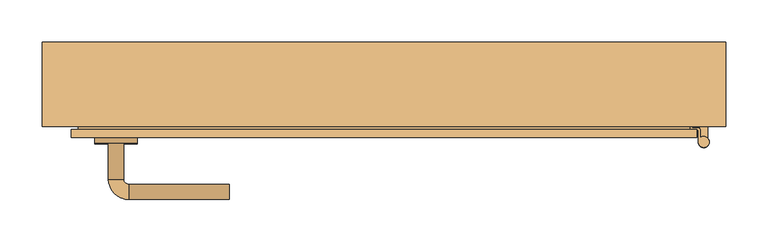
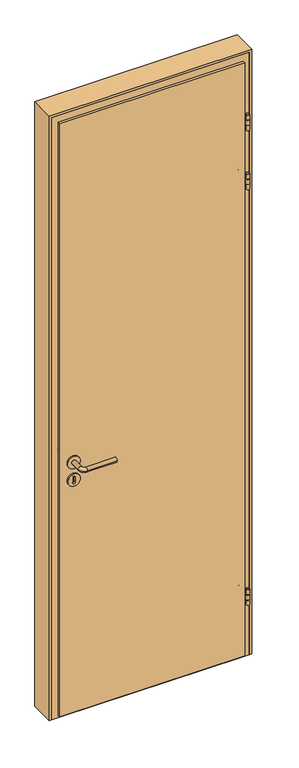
"""IFC4 building model written with IfcOpenShell, lengths in millimetres: door geometry, JW_Interior_Door_Steady_411_Single_1.0 : 790 x 1890 mm - M8 x M19 2 gray."""

from ifc_helpers import new_model, si_unit, point, frame, frame_2d, origin, place, context, project, spatial, polyline, circle_curve, ellipse_curve, trimmed, segment, composite_curve, outline, extrude, faceted_brep, source, transform, mapped, element, save
from ifc_brep_helpers import plane_surface, cylinder_surface, revolved_surface, advanced_brep


def door_9fdbb8ee(model_context):
    return source(origin(), model_context, "Body", "SolidModel", [
        advanced_brep(
        [(374.9018538, -63.3783893, 2305.5), (374.9018538, -54.9005704, 2305.5), (371.7009982, -51.6997148, 2305.5), (365.6997148, -51.6997148, 2305.5), (364.9, -50.9, 2305.5), (364.408042, -41.5128824, 2305.5), (364.1463622, -36.5197347, 2305.5), (361.6497884, -36.6505746, 2305.5), (361.9114682, -41.6437223, 2305.5), (362.4001557, -50.9684354, 2305.5), (365.6129452, -54.1812249, 2305.5), (371.5949734, -54.1812249, 2305.5), (372.404139, -54.9903905, 2305.5), (372.404139, -68.4990677, 2305.5), (374.9018538, -63.3783893, 2240.5), (372.404139, -68.4990677, 2240.5), (372.404139, -54.9903905, 2240.5), (371.5949734, -54.1812249, 2240.5), (365.6129452, -54.1812249, 2240.5), (362.4001557, -50.9684354, 2240.5), (361.9114682, -41.6437223, 2240.5), (361.6497884, -36.6505746, 2240.5), (364.1463622, -36.5197347, 2240.5), (364.408042, -41.5128824, 2240.5), (364.9, -50.9, 2240.5), (365.6997148, -51.6997148, 2240.5), (371.7009982, -51.6997148, 2240.5), (374.9018538, -54.9005704, 2240.5), (372.404139, -68.4990677, 2286.0), (374.9018538, -63.3783893, 2286.0), (374.9018538, -63.3783893, 2260.0), (372.404139, -68.4990677, 2260.0), (374.9018538, -54.9005704, 2286.0), (374.9018538, -54.9005704, 2260.0), (371.7009982, -51.6997148, 2286.0), (371.7009982, -51.6997148, 2260.0), (368.9, -51.6997148, 2286.0), (368.9, -51.6997148, 2260.0), (363.6230027, -26.5334394, 2250.5), (363.6230027, -26.5334394, 2295.5), (361.1264288, -26.6642792, 2250.5), (361.1264288, -26.6642792, 2295.5), (371.5949734, -54.1812249, 2260.0), (368.9, -54.1812249, 2260.0), (368.9, -54.1812249, 2286.0), (371.5949734, -54.1812249, 2286.0), (372.404139, -54.9903905, 2286.0), (372.404139, -54.9903905, 2260.0)],
        [
            (0, 1),
            (1, 2, circle_curve(frame((371.7009982, -54.9005704, 2305.5), z_axis=(0.0, 0.0, 1.0), x_axis=(0.0, 1.0, 0.0)), 3.2008556)),
            (2, 3),
            (3, 4, circle_curve(frame((365.6997148, -50.9, 2305.5), z_axis=(0.0, 0.0, -1.0), x_axis=(0.0, 1.0, 0.0)), 0.7997148)),
            (4, 5),
            (5, 6),
            (6, 7),
            (7, 8),
            (8, 9),
            (9, 10, circle_curve(frame((365.6129452, -50.9684354, 2305.5), z_axis=(0.0, 0.0, 1.0), x_axis=(0.0, 1.0, 0.0)), 3.2127895)),
            (10, 11),
            (11, 12, circle_curve(frame((371.5949734, -54.9903905, 2305.5), z_axis=(0.0, 0.0, -1.0), x_axis=(0.0, 1.0, 0.0)), 0.8091657)),
            (12, 13),
            (13, 0, circle_curve(frame((378.902064, -68.4990677, 2305.5), z_axis=(0.0, 0.0, 1.0), x_axis=(0.0, 1.0, 0.0)), 6.4979249)),
            (14, 15, circle_curve(frame((378.902064, -68.4990677, 2240.5), z_axis=(0.0, 0.0, -1.0), x_axis=(0.0, 1.0, 0.0)), 6.4979249)),
            (15, 16),
            (16, 17, circle_curve(frame((371.5949734, -54.9903905, 2240.5), z_axis=(0.0, 0.0, 1.0), x_axis=(0.0, 1.0, 0.0)), 0.8091657)),
            (17, 18),
            (18, 19, circle_curve(frame((365.6129452, -50.9684354, 2240.5), z_axis=(0.0, 0.0, -1.0), x_axis=(0.0, 1.0, 0.0)), 3.2127895)),
            (19, 20),
            (20, 21),
            (21, 22),
            (22, 23),
            (23, 24),
            (24, 25, circle_curve(frame((365.6997148, -50.9, 2240.5), z_axis=(0.0, 0.0, 1.0), x_axis=(0.0, 1.0, 0.0)), 0.7997148)),
            (25, 26),
            (26, 27, circle_curve(frame((371.7009982, -54.9005704, 2240.5), z_axis=(0.0, 0.0, -1.0), x_axis=(0.0, 1.0, 0.0)), 3.2008556)),
            (27, 14),
            (13, 28),
            (28, 29, circle_curve(frame((378.902064, -68.4990677, 2286.0), z_axis=(0.0, 0.0, 1.0), x_axis=(0.0, 1.0, 0.0)), 6.4979249)),
            (29, 0),
            (14, 30),
            (30, 31, circle_curve(frame((378.902064, -68.4990677, 2260.0), z_axis=(0.0, 0.0, -1.0), x_axis=(0.0, 1.0, 0.0)), 6.4979249)),
            (31, 15),
            (29, 32),
            (32, 1),
            (27, 33),
            (33, 30),
            (32, 34, circle_curve(frame((371.7009982, -54.9005704, 2286.0), z_axis=(0.0, 0.0, 1.0), x_axis=(0.0, 1.0, 0.0)), 3.2008556)),
            (34, 2),
            (26, 35),
            (35, 33, circle_curve(frame((371.7009982, -54.9005704, 2260.0), z_axis=(0.0, 0.0, -1.0), x_axis=(0.0, 1.0, 0.0)), 3.2008556)),
            (34, 36),
            (36, 37),
            (37, 35),
            (25, 3),
            (24, 4),
            (22, 38, circle_curve(frame((364.1463622, -36.5197347, 2250.5), z_axis=(0.9986295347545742, 0.05233595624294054, 0.0), x_axis=(0.05233595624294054, -0.9986295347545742, 0.0)), 10.0)),
            (38, 39),
            (39, 6, circle_curve(frame((364.1463622, -36.5197347, 2295.5), z_axis=(0.9986295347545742, 0.05233595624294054, 0.0), x_axis=(0.05233595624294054, -0.9986295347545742, 0.0)), 10.0)),
            (38, 40),
            (40, 41),
            (41, 39),
            (19, 9),
            (7, 41, circle_curve(frame((361.6497884, -36.6505746, 2295.5), z_axis=(-0.9986295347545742, -0.05233595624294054, 0.0), x_axis=(0.05233595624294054, -0.9986295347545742, 0.0)), 10.0)),
            (40, 21, circle_curve(frame((361.6497884, -36.6505746, 2250.5), z_axis=(-0.9986295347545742, -0.05233595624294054, 0.0), x_axis=(0.05233595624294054, -0.9986295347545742, 0.0)), 10.0)),
            (18, 10),
            (17, 42),
            (42, 43),
            (43, 44),
            (44, 45),
            (45, 11),
            (45, 46, circle_curve(frame((371.5949734, -54.9903905, 2286.0), z_axis=(0.0, 0.0, -1.0), x_axis=(0.0, 1.0, 0.0)), 0.8091657)),
            (46, 12),
            (16, 47),
            (47, 42, circle_curve(frame((371.5949734, -54.9903905, 2260.0), z_axis=(0.0, 0.0, 1.0), x_axis=(0.0, 1.0, 0.0)), 0.8091657)),
            (46, 28),
            (31, 47),
            (44, 36),
            (37, 43),
        ],
        [
            plane_surface(frame((374.9018538, -54.9005704, 2305.5), z_axis=(0.0, 0.0, 1.0), x_axis=(0.0, 1.0, 0.0))),
            plane_surface(frame((374.9018538, -54.9005704, 2240.5), z_axis=(0.0, 0.0, -1.0), x_axis=(0.0, -1.0, 0.0))),
            cylinder_surface(frame((378.902064, -68.4990677, 2240.5), z_axis=(0.0, 0.0, 1.0), x_axis=(0.0, 1.0, 0.0)), 6.4979249),
            plane_surface(frame((374.9018538, -63.3783893, 2305.5), z_axis=(1.0, 0.0, 0.0), x_axis=(0.0, 0.0, -1.0))),
            cylinder_surface(frame((371.7009982, -54.9005704, 2240.5), z_axis=(0.0, 0.0, 1.0), x_axis=(0.0, 1.0, 0.0)), 3.2008556),
            plane_surface(frame((371.7009982, -51.6997148, 2305.5), z_axis=(0.0, 1.0, 0.0), x_axis=(0.0, 0.0, -1.0))),
            revolved_surface(polyline([(365.6997148, -50.1002852, 2240.5), (365.6997148, -50.1002852, 2305.5)]), (365.6997148, -50.9, 2240.5), (0.0, 0.0, -1.0)),
            plane_surface(frame((364.9, -50.9, 2305.5), z_axis=(0.9986295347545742, 0.05233595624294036, 0.0), x_axis=(0.0, 0.0, -1.0))),
            plane_surface(frame((363.6230027, -26.5334394, 2305.5), z_axis=(-0.05233595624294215, 0.998629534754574, 0.0), x_axis=(0.0, 0.0, -1.0))),
            plane_surface(frame((361.1264288, -26.6642792, 2305.5), z_axis=(-0.9986295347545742, -0.05233595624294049, 0.0), x_axis=(0.0, 0.0, -1.0))),
            cylinder_surface(frame((365.6129452, -50.9684354, 2240.5), z_axis=(0.0, 0.0, 1.0), x_axis=(0.0, 1.0, 0.0)), 3.2127895),
            plane_surface(frame((365.6129452, -54.1812249, 2305.5), z_axis=(0.0, -1.0, 0.0), x_axis=(0.0, 0.0, -1.0))),
            revolved_surface(polyline([(371.5949734, -54.181224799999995, 2286.0), (371.5949734, -54.181224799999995, 2305.5)]), (371.5949734, -54.9903905, 2240.5), (0.0, 0.0, -1.0)),
            revolved_surface(polyline([(371.5949734, -54.181224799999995, 2240.5), (371.5949734, -54.181224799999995, 2260.0)]), (371.5949734, -54.9903905, 2240.5), (0.0, 0.0, -1.0)),
            plane_surface(frame((372.404139, -54.9903905, 2305.5), z_axis=(-1.0, 0.0, 0.0), x_axis=(0.0, 0.0, -1.0))),
            plane_surface(frame((386.4849846, -78.5564762, 2286.0), z_axis=(0.0, 0.0, -1.0), x_axis=(1.0, 0.0, 0.0))),
            plane_surface(frame((386.4849846, -78.5564762, 2260.0), z_axis=(0.0, 0.0, 1.0), x_axis=(-1.0, 0.0, 0.0))),
            plane_surface(frame((368.9, -48.5564762, 2286.0), z_axis=(1.0, 0.0, 0.0), x_axis=(0.0, 0.0, -1.0))),
            cylinder_surface(frame((369.1395099, -36.2580549, 2250.5), z_axis=(0.9986295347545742, 0.05233595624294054, 0.0), x_axis=(0.05233595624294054, -0.9986295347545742, 0.0)), 10.0),
            cylinder_surface(frame((369.1395099, -36.2580549, 2295.5), z_axis=(0.9986295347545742, 0.05233595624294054, 0.0), x_axis=(0.05233595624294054, -0.9986295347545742, 0.0)), 10.0),
        ],
        [
            (0, [[1, 2, 3, 4, 5, 6, 7, 8, 9, 10, 11, 12, 13, 14]]),
            (1, [[15, 16, 17, 18, 19, 20, 21, 22, 23, 24, 25, 26, 27, 28]]),
            (2, [[-14, 29, 30, 31]]),
            (2, [[-15, 32, 33, 34]]),
            (3, [[-1, -31, 35, 36]]),
            (3, [[-28, 37, 38, -32]]),
            (4, [[-2, -36, 39, 40]]),
            (4, [[-27, 41, 42, -37]]),
            (5, [[-3, -40, 43, 44, 45, -41, -26, 46]]),
            (6, [[-4, -46, -25, 47]]),
            (7, [[-47, -24, -23, 48, 49, 50, -6, -5]]),
            (8, [[-49, 51, 52, 53]]),
            (9, [[54, -9, -8, 55, -52, 56, -21, -20]]),
            (10, [[-10, -54, -19, 57]]),
            (11, [[-11, -57, -18, 58, 59, 60, 61, 62]]),
            (12, [[-12, -62, 63, 64]]),
            (13, [[-17, 65, 66, -58]]),
            (14, [[-13, -64, 67, -29]]),
            (14, [[-16, -34, 68, -65]]),
            (15, [[69, -43, -39, -35, -30, -67, -63, -61]]),
            (16, [[70, -59, -66, -68, -33, -38, -42, -45]]),
            (17, [[-69, -60, -70, -44]]),
            (18, [[-22, -56, -51, -48]]),
            (19, [[-7, -50, -53, -55]]),
        ],
    ),
        extrude(outline(composite_curve([segment(trimmed(circle_curve(frame_2d((378.9, -68.5)), 3.75), [point((375.15, -68.5))], [point((382.65, -68.5))], False, "CARTESIAN"), True, "CONTINUOUS"), segment(trimmed(circle_curve(frame_2d((378.9, -68.5)), 3.75), [point((382.65, -68.5))], [point((375.15, -68.5))], False, "CARTESIAN"), True, "CONTINUOUS")], self_intersect=False)), frame((0.0, 0.0, 2240.5), z_axis=(0.0, 0.0, 1.0), x_axis=(1.0, 0.0, 0.0)), (0.0, 0.0, 1.0), 65.0),
        extrude(outline(composite_curve([segment(trimmed(circle_curve(frame_2d((378.9, -68.5)), 6.5), [point((383.9, -64.3466881))], [point((373.9, -64.3466881))], False, "CARTESIAN"), True, "CONTINUOUS"), segment(polyline([(373.9, -64.3466881), (373.9, -50.0), (383.9, -50.0), (383.9, -64.3466881)]), True, "CONTINUOUS")], self_intersect=False)), frame((0.0, 0.0, 2263.0), z_axis=(0.0, 0.0, 1.0), x_axis=(1.0, 0.0, 0.0)), (0.0, 0.0, 1.0), 20.0),
        advanced_brep(
        [(374.9018538, -63.3783893, 2055.5), (374.9018538, -54.9005704, 2055.5), (371.7009982, -51.6997148, 2055.5), (365.6997148, -51.6997148, 2055.5), (364.9, -50.9, 2055.5), (364.408042, -41.5128824, 2055.5), (364.1463622, -36.5197347, 2055.5), (361.6497884, -36.6505746, 2055.5), (361.9114682, -41.6437223, 2055.5), (362.4001557, -50.9684354, 2055.5), (365.6129452, -54.1812249, 2055.5), (371.5949734, -54.1812249, 2055.5), (372.404139, -54.9903905, 2055.5), (372.404139, -68.4990677, 2055.5), (374.9018538, -63.3783893, 1990.5), (372.404139, -68.4990677, 1990.5), (372.404139, -54.9903905, 1990.5), (371.5949734, -54.1812249, 1990.5), (365.6129452, -54.1812249, 1990.5), (362.4001557, -50.9684354, 1990.5), (361.9114682, -41.6437223, 1990.5), (361.6497884, -36.6505746, 1990.5), (364.1463622, -36.5197347, 1990.5), (364.408042, -41.5128824, 1990.5), (364.9, -50.9, 1990.5), (365.6997148, -51.6997148, 1990.5), (371.7009982, -51.6997148, 1990.5), (374.9018538, -54.9005704, 1990.5), (372.404139, -68.4990677, 2036.0), (374.9018538, -63.3783893, 2036.0), (374.9018538, -63.3783893, 2010.0), (372.404139, -68.4990677, 2010.0), (374.9018538, -54.9005704, 2036.0), (374.9018538, -54.9005704, 2010.0), (371.7009982, -51.6997148, 2036.0), (371.7009982, -51.6997148, 2010.0), (368.9, -51.6997148, 2036.0), (368.9, -51.6997148, 2010.0), (363.6230027, -26.5334394, 2000.5), (363.6230027, -26.5334394, 2045.5), (361.1264288, -26.6642792, 2000.5), (361.1264288, -26.6642792, 2045.5), (371.5949734, -54.1812249, 2010.0), (368.9, -54.1812249, 2010.0), (368.9, -54.1812249, 2036.0), (371.5949734, -54.1812249, 2036.0), (372.404139, -54.9903905, 2036.0), (372.404139, -54.9903905, 2010.0)],
        [
            (0, 1),
            (1, 2, circle_curve(frame((371.7009982, -54.9005704, 2055.5), z_axis=(0.0, 0.0, 1.0), x_axis=(0.0, 1.0, 0.0)), 3.2008556)),
            (2, 3),
            (3, 4, circle_curve(frame((365.6997148, -50.9, 2055.5), z_axis=(0.0, 0.0, -1.0), x_axis=(0.0, 1.0, 0.0)), 0.7997148)),
            (4, 5),
            (5, 6),
            (6, 7),
            (7, 8),
            (8, 9),
            (9, 10, circle_curve(frame((365.6129452, -50.9684354, 2055.5), z_axis=(0.0, 0.0, 1.0), x_axis=(0.0, 1.0, 0.0)), 3.2127895)),
            (10, 11),
            (11, 12, circle_curve(frame((371.5949734, -54.9903905, 2055.5), z_axis=(0.0, 0.0, -1.0), x_axis=(0.0, 1.0, 0.0)), 0.8091657)),
            (12, 13),
            (13, 0, circle_curve(frame((378.902064, -68.4990677, 2055.5), z_axis=(0.0, 0.0, 1.0), x_axis=(0.0, 1.0, 0.0)), 6.4979249)),
            (14, 15, circle_curve(frame((378.902064, -68.4990677, 1990.5), z_axis=(0.0, 0.0, -1.0), x_axis=(0.0, 1.0, 0.0)), 6.4979249)),
            (15, 16),
            (16, 17, circle_curve(frame((371.5949734, -54.9903905, 1990.5), z_axis=(0.0, 0.0, 1.0), x_axis=(0.0, 1.0, 0.0)), 0.8091657)),
            (17, 18),
            (18, 19, circle_curve(frame((365.6129452, -50.9684354, 1990.5), z_axis=(0.0, 0.0, -1.0), x_axis=(0.0, 1.0, 0.0)), 3.2127895)),
            (19, 20),
            (20, 21),
            (21, 22),
            (22, 23),
            (23, 24),
            (24, 25, circle_curve(frame((365.6997148, -50.9, 1990.5), z_axis=(0.0, 0.0, 1.0), x_axis=(0.0, 1.0, 0.0)), 0.7997148)),
            (25, 26),
            (26, 27, circle_curve(frame((371.7009982, -54.9005704, 1990.5), z_axis=(0.0, 0.0, -1.0), x_axis=(0.0, 1.0, 0.0)), 3.2008556)),
            (27, 14),
            (13, 28),
            (28, 29, circle_curve(frame((378.902064, -68.4990677, 2036.0), z_axis=(0.0, 0.0, 1.0), x_axis=(0.0, 1.0, 0.0)), 6.4979249)),
            (29, 0),
            (14, 30),
            (30, 31, circle_curve(frame((378.902064, -68.4990677, 2010.0), z_axis=(0.0, 0.0, -1.0), x_axis=(0.0, 1.0, 0.0)), 6.4979249)),
            (31, 15),
            (29, 32),
            (32, 1),
            (27, 33),
            (33, 30),
            (32, 34, circle_curve(frame((371.7009982, -54.9005704, 2036.0), z_axis=(0.0, 0.0, 1.0), x_axis=(0.0, 1.0, 0.0)), 3.2008556)),
            (34, 2),
            (26, 35),
            (35, 33, circle_curve(frame((371.7009982, -54.9005704, 2010.0), z_axis=(0.0, 0.0, -1.0), x_axis=(0.0, 1.0, 0.0)), 3.2008556)),
            (34, 36),
            (36, 37),
            (37, 35),
            (25, 3),
            (24, 4),
            (22, 38, circle_curve(frame((364.1463622, -36.5197347, 2000.5), z_axis=(0.9986295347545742, 0.05233595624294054, 0.0), x_axis=(0.05233595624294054, -0.9986295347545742, 0.0)), 10.0)),
            (38, 39),
            (39, 6, circle_curve(frame((364.1463622, -36.5197347, 2045.5), z_axis=(0.9986295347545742, 0.05233595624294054, 0.0), x_axis=(0.05233595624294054, -0.9986295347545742, 0.0)), 10.0)),
            (38, 40),
            (40, 41),
            (41, 39),
            (19, 9),
            (7, 41, circle_curve(frame((361.6497884, -36.6505746, 2045.5), z_axis=(-0.9986295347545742, -0.05233595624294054, 0.0), x_axis=(0.05233595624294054, -0.9986295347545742, 0.0)), 10.0)),
            (40, 21, circle_curve(frame((361.6497884, -36.6505746, 2000.5), z_axis=(-0.9986295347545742, -0.05233595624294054, 0.0), x_axis=(0.05233595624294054, -0.9986295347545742, 0.0)), 10.0)),
            (18, 10),
            (17, 42),
            (42, 43),
            (43, 44),
            (44, 45),
            (45, 11),
            (45, 46, circle_curve(frame((371.5949734, -54.9903905, 2036.0), z_axis=(0.0, 0.0, -1.0), x_axis=(0.0, 1.0, 0.0)), 0.8091657)),
            (46, 12),
            (16, 47),
            (47, 42, circle_curve(frame((371.5949734, -54.9903905, 2010.0), z_axis=(0.0, 0.0, 1.0), x_axis=(0.0, 1.0, 0.0)), 0.8091657)),
            (46, 28),
            (31, 47),
            (44, 36),
            (37, 43),
        ],
        [
            plane_surface(frame((374.9018538, -54.9005704, 2055.5), z_axis=(0.0, 0.0, 1.0), x_axis=(0.0, 1.0, 0.0))),
            plane_surface(frame((374.9018538, -54.9005704, 1990.5), z_axis=(0.0, 0.0, -1.0), x_axis=(0.0, -1.0, 0.0))),
            cylinder_surface(frame((378.902064, -68.4990677, 1990.5), z_axis=(0.0, 0.0, 1.0), x_axis=(0.0, 1.0, 0.0)), 6.4979249),
            plane_surface(frame((374.9018538, -63.3783893, 2055.5), z_axis=(1.0, 0.0, 0.0), x_axis=(0.0, 0.0, -1.0))),
            cylinder_surface(frame((371.7009982, -54.9005704, 1990.5), z_axis=(0.0, 0.0, 1.0), x_axis=(0.0, 1.0, 0.0)), 3.2008556),
            plane_surface(frame((371.7009982, -51.6997148, 2055.5), z_axis=(0.0, 1.0, 0.0), x_axis=(0.0, 0.0, -1.0))),
            revolved_surface(polyline([(365.6997148, -50.1002852, 1990.5), (365.6997148, -50.1002852, 2055.5)]), (365.6997148, -50.9, 1990.5), (0.0, 0.0, -1.0)),
            plane_surface(frame((364.9, -50.9, 2055.5), z_axis=(0.9986295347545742, 0.05233595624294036, 0.0), x_axis=(0.0, 0.0, -1.0))),
            plane_surface(frame((363.6230027, -26.5334394, 2055.5), z_axis=(-0.05233595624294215, 0.998629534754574, 0.0), x_axis=(0.0, 0.0, -1.0))),
            plane_surface(frame((361.1264288, -26.6642792, 2055.5), z_axis=(-0.9986295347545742, -0.05233595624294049, 0.0), x_axis=(0.0, 0.0, -1.0))),
            cylinder_surface(frame((365.6129452, -50.9684354, 1990.5), z_axis=(0.0, 0.0, 1.0), x_axis=(0.0, 1.0, 0.0)), 3.2127895),
            plane_surface(frame((365.6129452, -54.1812249, 2055.5), z_axis=(0.0, -1.0, 0.0), x_axis=(0.0, 0.0, -1.0))),
            revolved_surface(polyline([(371.5949734, -54.181224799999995, 2036.0), (371.5949734, -54.181224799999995, 2055.5)]), (371.5949734, -54.9903905, 1990.5), (0.0, 0.0, -1.0)),
            revolved_surface(polyline([(371.5949734, -54.181224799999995, 1990.5), (371.5949734, -54.181224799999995, 2010.0)]), (371.5949734, -54.9903905, 1990.5), (0.0, 0.0, -1.0)),
            plane_surface(frame((372.404139, -54.9903905, 2055.5), z_axis=(-1.0, 0.0, 0.0), x_axis=(0.0, 0.0, -1.0))),
            plane_surface(frame((386.4849846, -78.5564762, 2036.0), z_axis=(0.0, 0.0, -1.0), x_axis=(1.0, 0.0, 0.0))),
            plane_surface(frame((386.4849846, -78.5564762, 2010.0), z_axis=(0.0, 0.0, 1.0), x_axis=(-1.0, 0.0, 0.0))),
            plane_surface(frame((368.9, -48.5564762, 2036.0), z_axis=(1.0, 0.0, 0.0), x_axis=(0.0, 0.0, -1.0))),
            cylinder_surface(frame((369.1395099, -36.2580549, 2000.5), z_axis=(0.9986295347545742, 0.05233595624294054, 0.0), x_axis=(0.05233595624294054, -0.9986295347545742, 0.0)), 10.0),
            cylinder_surface(frame((369.1395099, -36.2580549, 2045.5), z_axis=(0.9986295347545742, 0.05233595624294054, 0.0), x_axis=(0.05233595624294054, -0.9986295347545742, 0.0)), 10.0),
        ],
        [
            (0, [[1, 2, 3, 4, 5, 6, 7, 8, 9, 10, 11, 12, 13, 14]]),
            (1, [[15, 16, 17, 18, 19, 20, 21, 22, 23, 24, 25, 26, 27, 28]]),
            (2, [[-14, 29, 30, 31]]),
            (2, [[-15, 32, 33, 34]]),
            (3, [[-1, -31, 35, 36]]),
            (3, [[-28, 37, 38, -32]]),
            (4, [[-2, -36, 39, 40]]),
            (4, [[-27, 41, 42, -37]]),
            (5, [[-3, -40, 43, 44, 45, -41, -26, 46]]),
            (6, [[-4, -46, -25, 47]]),
            (7, [[-47, -24, -23, 48, 49, 50, -6, -5]]),
            (8, [[-49, 51, 52, 53]]),
            (9, [[54, -9, -8, 55, -52, 56, -21, -20]]),
            (10, [[-10, -54, -19, 57]]),
            (11, [[-11, -57, -18, 58, 59, 60, 61, 62]]),
            (12, [[-12, -62, 63, 64]]),
            (13, [[-17, 65, 66, -58]]),
            (14, [[-13, -64, 67, -29]]),
            (14, [[-16, -34, 68, -65]]),
            (15, [[69, -43, -39, -35, -30, -67, -63, -61]]),
            (16, [[70, -59, -66, -68, -33, -38, -42, -45]]),
            (17, [[-69, -60, -70, -44]]),
            (18, [[-22, -56, -51, -48]]),
            (19, [[-7, -50, -53, -55]]),
        ],
    ),
        extrude(outline(composite_curve([segment(trimmed(circle_curve(frame_2d((378.9, -68.5)), 3.75), [point((375.15, -68.5))], [point((382.65, -68.5))], False, "CARTESIAN"), True, "CONTINUOUS"), segment(trimmed(circle_curve(frame_2d((378.9, -68.5)), 3.75), [point((382.65, -68.5))], [point((375.15, -68.5))], False, "CARTESIAN"), True, "CONTINUOUS")], self_intersect=False)), frame((0.0, 0.0, 1990.5), z_axis=(0.0, 0.0, 1.0), x_axis=(1.0, 0.0, 0.0)), (0.0, 0.0, 1.0), 65.0),
        extrude(outline(composite_curve([segment(trimmed(circle_curve(frame_2d((378.9, -68.5)), 6.5), [point((383.9, -64.3466881))], [point((373.9, -64.3466881))], False, "CARTESIAN"), True, "CONTINUOUS"), segment(polyline([(373.9, -64.3466881), (373.9, -50.0), (383.9, -50.0), (383.9, -64.3466881)]), True, "CONTINUOUS")], self_intersect=False)), frame((0.0, 0.0, 2013.0), z_axis=(0.0, 0.0, 1.0), x_axis=(1.0, 0.0, 0.0)), (0.0, 0.0, 1.0), 20.0),
        advanced_brep(
        [(374.9018538, -63.3783893, 295.5), (374.9018538, -54.9005704, 295.5), (371.7009982, -51.6997148, 295.5), (365.6997148, -51.6997148, 295.5), (364.9, -50.9, 295.5), (364.408042, -41.5128824, 295.5), (364.1463622, -36.5197347, 295.5), (361.6497884, -36.6505746, 295.5), (361.9114682, -41.6437223, 295.5), (362.4001557, -50.9684354, 295.5), (365.6129452, -54.1812249, 295.5), (371.5949734, -54.1812249, 295.5), (372.404139, -54.9903905, 295.5), (372.404139, -68.4990677, 295.5), (374.9018538, -63.3783893, 230.5), (372.404139, -68.4990677, 230.5), (372.404139, -54.9903905, 230.5), (371.5949734, -54.1812249, 230.5), (365.6129452, -54.1812249, 230.5), (362.4001557, -50.9684354, 230.5), (361.9114682, -41.6437223, 230.5), (361.6497884, -36.6505746, 230.5), (364.1463622, -36.5197347, 230.5), (364.408042, -41.5128824, 230.5), (364.9, -50.9, 230.5), (365.6997148, -51.6997148, 230.5), (371.7009982, -51.6997148, 230.5), (374.9018538, -54.9005704, 230.5), (372.404139, -68.4990677, 276.0), (374.9018538, -63.3783893, 276.0), (374.9018538, -63.3783893, 250.0), (372.404139, -68.4990677, 250.0), (374.9018538, -54.9005704, 276.0), (374.9018538, -54.9005704, 250.0), (371.7009982, -51.6997148, 276.0), (371.7009982, -51.6997148, 250.0), (368.9, -51.6997148, 276.0), (368.9, -51.6997148, 250.0), (363.6230027, -26.5334394, 240.5), (363.6230027, -26.5334394, 285.5), (361.1264288, -26.6642792, 240.5), (361.1264288, -26.6642792, 285.5), (371.5949734, -54.1812249, 250.0), (368.9, -54.1812249, 250.0), (368.9, -54.1812249, 276.0), (371.5949734, -54.1812249, 276.0), (372.404139, -54.9903905, 276.0), (372.404139, -54.9903905, 250.0)],
        [
            (0, 1),
            (1, 2, circle_curve(frame((371.7009982, -54.9005704, 295.5), z_axis=(0.0, 0.0, 1.0), x_axis=(0.0, 1.0, 0.0)), 3.2008556)),
            (2, 3),
            (3, 4, circle_curve(frame((365.6997148, -50.9, 295.5), z_axis=(0.0, 0.0, -1.0), x_axis=(0.0, 1.0, 0.0)), 0.7997148)),
            (4, 5),
            (5, 6),
            (6, 7),
            (7, 8),
            (8, 9),
            (9, 10, circle_curve(frame((365.6129452, -50.9684354, 295.5), z_axis=(0.0, 0.0, 1.0), x_axis=(0.0, 1.0, 0.0)), 3.2127895)),
            (10, 11),
            (11, 12, circle_curve(frame((371.5949734, -54.9903905, 295.5), z_axis=(0.0, 0.0, -1.0), x_axis=(0.0, 1.0, 0.0)), 0.8091657)),
            (12, 13),
            (13, 0, circle_curve(frame((378.902064, -68.4990677, 295.5), z_axis=(0.0, 0.0, 1.0), x_axis=(0.0, 1.0, 0.0)), 6.4979249)),
            (14, 15, circle_curve(frame((378.902064, -68.4990677, 230.5), z_axis=(0.0, 0.0, -1.0), x_axis=(0.0, 1.0, 0.0)), 6.4979249)),
            (15, 16),
            (16, 17, circle_curve(frame((371.5949734, -54.9903905, 230.5), z_axis=(0.0, 0.0, 1.0), x_axis=(0.0, 1.0, 0.0)), 0.8091657)),
            (17, 18),
            (18, 19, circle_curve(frame((365.6129452, -50.9684354, 230.5), z_axis=(0.0, 0.0, -1.0), x_axis=(0.0, 1.0, 0.0)), 3.2127895)),
            (19, 20),
            (20, 21),
            (21, 22),
            (22, 23),
            (23, 24),
            (24, 25, circle_curve(frame((365.6997148, -50.9, 230.5), z_axis=(0.0, 0.0, 1.0), x_axis=(0.0, 1.0, 0.0)), 0.7997148)),
            (25, 26),
            (26, 27, circle_curve(frame((371.7009982, -54.9005704, 230.5), z_axis=(0.0, 0.0, -1.0), x_axis=(0.0, 1.0, 0.0)), 3.2008556)),
            (27, 14),
            (13, 28),
            (28, 29, circle_curve(frame((378.902064, -68.4990677, 276.0), z_axis=(0.0, 0.0, 1.0), x_axis=(0.0, 1.0, 0.0)), 6.4979249)),
            (29, 0),
            (14, 30),
            (30, 31, circle_curve(frame((378.902064, -68.4990677, 250.0), z_axis=(0.0, 0.0, -1.0), x_axis=(0.0, 1.0, 0.0)), 6.4979249)),
            (31, 15),
            (29, 32),
            (32, 1),
            (27, 33),
            (33, 30),
            (32, 34, circle_curve(frame((371.7009982, -54.9005704, 276.0), z_axis=(0.0, 0.0, 1.0), x_axis=(0.0, 1.0, 0.0)), 3.2008556)),
            (34, 2),
            (26, 35),
            (35, 33, circle_curve(frame((371.7009982, -54.9005704, 250.0), z_axis=(0.0, 0.0, -1.0), x_axis=(0.0, 1.0, 0.0)), 3.2008556)),
            (34, 36),
            (36, 37),
            (37, 35),
            (25, 3),
            (24, 4),
            (22, 38, circle_curve(frame((364.1463622, -36.5197347, 240.5), z_axis=(0.9986295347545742, 0.05233595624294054, 0.0), x_axis=(0.05233595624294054, -0.9986295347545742, 0.0)), 10.0)),
            (38, 39),
            (39, 6, circle_curve(frame((364.1463622, -36.5197347, 285.5), z_axis=(0.9986295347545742, 0.05233595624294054, 0.0), x_axis=(0.05233595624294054, -0.9986295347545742, 0.0)), 10.0)),
            (38, 40),
            (40, 41),
            (41, 39),
            (19, 9),
            (7, 41, circle_curve(frame((361.6497884, -36.6505746, 285.5), z_axis=(-0.9986295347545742, -0.05233595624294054, 0.0), x_axis=(0.05233595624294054, -0.9986295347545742, 0.0)), 10.0)),
            (40, 21, circle_curve(frame((361.6497884, -36.6505746, 240.5), z_axis=(-0.9986295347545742, -0.05233595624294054, 0.0), x_axis=(0.05233595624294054, -0.9986295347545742, 0.0)), 10.0)),
            (18, 10),
            (17, 42),
            (42, 43),
            (43, 44),
            (44, 45),
            (45, 11),
            (45, 46, circle_curve(frame((371.5949734, -54.9903905, 276.0), z_axis=(0.0, 0.0, -1.0), x_axis=(0.0, 1.0, 0.0)), 0.8091657)),
            (46, 12),
            (16, 47),
            (47, 42, circle_curve(frame((371.5949734, -54.9903905, 250.0), z_axis=(0.0, 0.0, 1.0), x_axis=(0.0, 1.0, 0.0)), 0.8091657)),
            (46, 28),
            (31, 47),
            (44, 36),
            (37, 43),
        ],
        [
            plane_surface(frame((374.9018538, -54.9005704, 295.5), z_axis=(0.0, 0.0, 1.0), x_axis=(0.0, 1.0, 0.0))),
            plane_surface(frame((374.9018538, -54.9005704, 230.5), z_axis=(0.0, 0.0, -1.0), x_axis=(0.0, -1.0, 0.0))),
            cylinder_surface(frame((378.902064, -68.4990677, 230.5), z_axis=(0.0, 0.0, 1.0), x_axis=(0.0, 1.0, 0.0)), 6.4979249),
            plane_surface(frame((374.9018538, -63.3783893, 295.5), z_axis=(1.0, 0.0, 0.0), x_axis=(0.0, 0.0, -1.0))),
            cylinder_surface(frame((371.7009982, -54.9005704, 230.5), z_axis=(0.0, 0.0, 1.0), x_axis=(0.0, 1.0, 0.0)), 3.2008556),
            plane_surface(frame((371.7009982, -51.6997148, 295.5), z_axis=(0.0, 1.0, 0.0), x_axis=(0.0, 0.0, -1.0))),
            revolved_surface(polyline([(365.6997148, -50.1002852, 230.5), (365.6997148, -50.1002852, 295.5)]), (365.6997148, -50.9, 230.5), (0.0, 0.0, -1.0)),
            plane_surface(frame((364.9, -50.9, 295.5), z_axis=(0.9986295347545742, 0.05233595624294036, 0.0), x_axis=(0.0, 0.0, -1.0))),
            plane_surface(frame((363.6230027, -26.5334394, 295.5), z_axis=(-0.05233595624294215, 0.998629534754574, 0.0), x_axis=(0.0, 0.0, -1.0))),
            plane_surface(frame((361.1264288, -26.6642792, 295.5), z_axis=(-0.9986295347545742, -0.05233595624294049, 0.0), x_axis=(0.0, 0.0, -1.0))),
            cylinder_surface(frame((365.6129452, -50.9684354, 230.5), z_axis=(0.0, 0.0, 1.0), x_axis=(0.0, 1.0, 0.0)), 3.2127895),
            plane_surface(frame((365.6129452, -54.1812249, 295.5), z_axis=(0.0, -1.0, 0.0), x_axis=(0.0, 0.0, -1.0))),
            revolved_surface(polyline([(371.5949734, -54.181224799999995, 276.0), (371.5949734, -54.181224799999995, 295.5)]), (371.5949734, -54.9903905, 230.5), (0.0, 0.0, -1.0)),
            revolved_surface(polyline([(371.5949734, -54.181224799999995, 230.5), (371.5949734, -54.181224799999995, 250.0)]), (371.5949734, -54.9903905, 230.5), (0.0, 0.0, -1.0)),
            plane_surface(frame((372.404139, -54.9903905, 295.5), z_axis=(-1.0, 0.0, 0.0), x_axis=(0.0, 0.0, -1.0))),
            plane_surface(frame((386.4849846, -78.5564762, 276.0), z_axis=(0.0, 0.0, -1.0), x_axis=(1.0, 0.0, 0.0))),
            plane_surface(frame((386.4849846, -78.5564762, 250.0), z_axis=(0.0, 0.0, 1.0), x_axis=(-1.0, 0.0, 0.0))),
            plane_surface(frame((368.9, -48.5564762, 276.0), z_axis=(1.0, 0.0, 0.0), x_axis=(0.0, 0.0, -1.0))),
            cylinder_surface(frame((369.1395099, -36.2580549, 240.5), z_axis=(0.9986295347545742, 0.05233595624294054, 0.0), x_axis=(0.05233595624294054, -0.9986295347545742, 0.0)), 10.0),
            cylinder_surface(frame((369.1395099, -36.2580549, 285.5), z_axis=(0.9986295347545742, 0.05233595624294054, 0.0), x_axis=(0.05233595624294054, -0.9986295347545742, 0.0)), 10.0),
        ],
        [
            (0, [[1, 2, 3, 4, 5, 6, 7, 8, 9, 10, 11, 12, 13, 14]]),
            (1, [[15, 16, 17, 18, 19, 20, 21, 22, 23, 24, 25, 26, 27, 28]]),
            (2, [[-14, 29, 30, 31]]),
            (2, [[-15, 32, 33, 34]]),
            (3, [[-1, -31, 35, 36]]),
            (3, [[-28, 37, 38, -32]]),
            (4, [[-2, -36, 39, 40]]),
            (4, [[-27, 41, 42, -37]]),
            (5, [[-3, -40, 43, 44, 45, -41, -26, 46]]),
            (6, [[-4, -46, -25, 47]]),
            (7, [[-47, -24, -23, 48, 49, 50, -6, -5]]),
            (8, [[-49, 51, 52, 53]]),
            (9, [[54, -9, -8, 55, -52, 56, -21, -20]]),
            (10, [[-10, -54, -19, 57]]),
            (11, [[-11, -57, -18, 58, 59, 60, 61, 62]]),
            (12, [[-12, -62, 63, 64]]),
            (13, [[-17, 65, 66, -58]]),
            (14, [[-13, -64, 67, -29]]),
            (14, [[-16, -34, 68, -65]]),
            (15, [[69, -43, -39, -35, -30, -67, -63, -61]]),
            (16, [[70, -59, -66, -68, -33, -38, -42, -45]]),
            (17, [[-69, -60, -70, -44]]),
            (18, [[-22, -56, -51, -48]]),
            (19, [[-7, -50, -53, -55]]),
        ],
    ),
        extrude(outline(composite_curve([segment(trimmed(circle_curve(frame_2d((378.9, -68.5)), 3.75), [point((375.15, -68.5))], [point((382.65, -68.5))], False, "CARTESIAN"), True, "CONTINUOUS"), segment(trimmed(circle_curve(frame_2d((378.9, -68.5)), 3.75), [point((382.65, -68.5))], [point((375.15, -68.5))], False, "CARTESIAN"), True, "CONTINUOUS")], self_intersect=False)), frame((0.0, 0.0, 230.5), z_axis=(0.0, 0.0, 1.0), x_axis=(1.0, 0.0, 0.0)), (0.0, 0.0, 1.0), 65.0),
        extrude(outline(composite_curve([segment(trimmed(circle_curve(frame_2d((378.9, -68.5)), 6.5), [point((383.9, -64.3466881))], [point((373.9, -64.3466881))], False, "CARTESIAN"), True, "CONTINUOUS"), segment(polyline([(373.9, -64.3466881), (373.9, -50.0), (383.9, -50.0), (383.9, -64.3466881)]), True, "CONTINUOUS")], self_intersect=False)), frame((0.0, 0.0, 253.0), z_axis=(0.0, 0.0, 1.0), x_axis=(1.0, 0.0, 0.0)), (0.0, 0.0, 1.0), 20.0),
        faceted_brep([(-395.0, 42.0, 0.0), (-353.0, 42.0, 0.0), (-353.0, -20.0, 0.0), (-365.0, -20.0, 0.0), (-365.0, -50.0, 0.0), (-395.0, -50.0, 0.0), (-395.0, -50.0, 2550.0), (-395.0, 42.0, 2550.0), (-365.0, -50.0, 2520.0), (365.0, -50.0, 2520.0), (365.0, -50.0, 0.0), (395.0, -50.0, 0.0), (395.0, -50.0, 2550.0), (-365.0, -20.0, 2520.0), (-353.0, -20.0, 2508.0), (353.0, -20.0, 2508.0), (353.0, -20.0, 0.0), (365.0, -20.0, 0.0), (365.0, -20.0, 2520.0), (-353.0, 42.0, 2508.0), (395.0, 42.0, 2550.0), (395.0, 42.0, 0.0), (353.0, 42.0, 0.0), (353.0, 42.0, 2508.0)], [[[0, 1, 2, 3, 4, 5]], [[5, 6, 7, 0]], [[4, 8, 9, 10, 11, 12, 6, 5]], [[3, 13, 8, 4]], [[2, 14, 15, 16, 17, 18, 13, 3]], [[1, 19, 14, 2]], [[0, 7, 20, 21, 22, 23, 19, 1]], [[12, 11, 21, 20]], [[21, 11, 10, 17, 16, 22]], [[18, 17, 10, 9]], [[23, 22, 16, 15]], [[6, 12, 20, 7]], [[13, 18, 9, 8]], [[19, 23, 15, 14]]]),
        faceted_brep([(365.0, -50.0, 0.0), (365.0, -20.0, 0.0), (365.0, -20.0, 15.0), (365.0, -50.0, 15.0), (-365.0, -20.0, 15.0), (-365.0, -20.0, 0.0), (-365.0, -50.0, 0.0), (-365.0, -50.0, 15.0), (-353.0, -20.0, 0.0), (-353.0, 42.0, 0.0), (353.0, 42.0, 0.0), (353.0, -20.0, 0.0), (353.0, -20.0, 15.0), (-353.0, -20.0, 15.0), (353.0, -20.0, 22.0), (-353.0, -20.0, 22.0), (353.0, 42.0, 22.0), (-353.0, 42.0, 22.0)], [[[0, 1, 2, 3]], [[4, 5, 6, 7]], [[6, 5, 8, 9, 10, 11, 1, 0]], [[3, 7, 6, 0]], [[2, 12, 13, 4, 7, 3]], [[12, 14, 15, 13]], [[14, 16, 17, 15]], [[9, 17, 16, 10]], [[8, 5, 4, 13]], [[13, 15, 17, 9, 8]], [[11, 10, 16, 14, 12]], [[12, 2, 1, 11]]]),
        extrude(outline(composite_curve([segment(trimmed(circle_curve(frame_2d((1001.0, -317.5)), 25.0), [point((1001.0, -292.5))], [point((1001.0, -342.5))], False, "CARTESIAN"), True, "CONTINUOUS"), segment(trimmed(circle_curve(frame_2d((1001.0, -317.5)), 25.0), [point((1001.0, -342.5))], [point((1001.0, -292.5))], False, "CARTESIAN"), True, "CONTINUOUS")], self_intersect=False), holes=[composite_curve([segment(polyline([(989.756589, -321.5), (1012.243411, -321.5)]), True, "CONTINUOUS"), segment(trimmed(circle_curve(frame_2d((1012.243411, -317.5)), 4.0), [point((1012.243411, -321.5))], [point((1012.243411, -313.5))], True, "CARTESIAN"), True, "CONTINUOUS"), segment(polyline([(1012.243411, -313.5), (989.756589, -313.5)]), True, "CONTINUOUS"), segment(trimmed(circle_curve(frame_2d((989.756589, -317.5)), 4.0), [point((989.756589, -313.5))], [point((989.756589, -321.5))], True, "CARTESIAN"), True, "CONTINUOUS")], self_intersect=False)]), frame((0.0, -23.5, 0.0), z_axis=(0.0, 1.0, 0.0), x_axis=(0.0, 0.0, 1.0)), (0.0, 0.0, 1.0), 7.0),
        extrude(outline(composite_curve([segment(trimmed(circle_curve(frame_2d((1001.0, -317.5)), 25.0), [point((1001.0, -292.5))], [point((1001.0, -342.5))], False, "CARTESIAN"), True, "CONTINUOUS"), segment(trimmed(circle_curve(frame_2d((1001.0, -317.5)), 25.0), [point((1001.0, -342.5))], [point((1001.0, -292.5))], False, "CARTESIAN"), True, "CONTINUOUS")], self_intersect=False), holes=[composite_curve([segment(trimmed(circle_curve(frame_2d((1012.243411, -317.5)), 4.0), [point((1012.243411, -321.5))], [point((1012.243411, -313.5))], True, "CARTESIAN"), True, "CONTINUOUS"), segment(polyline([(1012.243411, -313.5), (989.756589, -313.5)]), True, "CONTINUOUS"), segment(trimmed(circle_curve(frame_2d((989.756589, -317.5)), 4.0), [point((989.756589, -313.5))], [point((989.756589, -321.5))], True, "CARTESIAN"), True, "CONTINUOUS"), segment(polyline([(989.756589, -321.5), (1012.243411, -321.5)]), True, "CONTINUOUS")], self_intersect=False)]), frame((0.0, -70.5, 0.0), z_axis=(0.0, 1.0, 0.0), x_axis=(0.0, 0.0, 1.0)), (0.0, 0.0, 1.0), 7.0),
        advanced_brep(
        [(-342.5, -17.5, 1075.0), (-292.5, -17.5, 1075.0), (-308.5346073, -17.5, 1075.0), (-326.4653927, -17.5, 1075.0), (-342.5, -23.5, 1075.0), (-292.5, -23.5, 1075.0), (-308.5346073, 25.4627146, 1075.0), (-326.4653927, 25.4627146, 1075.0), (-302.5, 31.4973219, 1075.0), (-302.5, 49.4281073, 1075.0), (-183.5, 31.4973219, 1075.0), (-183.5, 49.4281073, 1075.0)],
        [
            (0, 1, circle_curve(frame((-317.5, -17.5, 1075.0), z_axis=(0.0, 1.0, 0.0), x_axis=(1.0, 0.0, 0.0)), 25.0)),
            (1, 0, circle_curve(frame((-317.5, -17.5, 1075.0), z_axis=(0.0, 1.0, 0.0), x_axis=(1.0, 0.0, 0.0)), 25.0)),
            (2, 3, circle_curve(frame((-317.5, -17.5, 1075.0), z_axis=(0.0, -1.0, 0.0), x_axis=(-1.0, 0.0, 0.0)), 8.9653927)),
            (3, 2, circle_curve(frame((-317.5, -17.5, 1075.0), z_axis=(0.0, -1.0, 0.0), x_axis=(-1.0, 0.0, 0.0)), 8.9653927)),
            (4, 5, circle_curve(frame((-317.5, -23.5, 1075.0), z_axis=(0.0, -1.0, 0.0), x_axis=(1.0, 0.0, 0.0)), 25.0)),
            (5, 4, circle_curve(frame((-317.5, -23.5, 1075.0), z_axis=(0.0, -1.0, 0.0), x_axis=(1.0, 0.0, 0.0)), 25.0)),
            (1, 5),
            (4, 0),
            (2, 6),
            (6, 7, circle_curve(frame((-317.5, 25.4627146, 1075.0), z_axis=(0.0, -1.0, 0.0), x_axis=(-1.0, 0.0, 0.0)), 8.9653927)),
            (7, 3),
            (7, 6, circle_curve(frame((-317.5, 25.4627146, 1075.0), z_axis=(0.0, -1.0, 0.0), x_axis=(-1.0, 0.0, 0.0)), 8.9653927)),
            (6, 8, circle_curve(frame((-302.5, 25.4627146, 1075.0), z_axis=(0.0, 0.0, -1.0), x_axis=(-1.0, 0.0, 0.0)), 6.0346073)),
            (8, 9, circle_curve(frame((-302.5, 40.4627146, 1075.0), z_axis=(-1.0, 0.0, 0.0), x_axis=(0.0, 1.0, 0.0)), 8.9653927)),
            (9, 7, circle_curve(frame((-302.5, 25.4627146, 1075.0), z_axis=(0.0, 0.0, 1.0), x_axis=(-1.0, 0.0, 0.0)), 23.9653927)),
            (9, 8, circle_curve(frame((-302.5, 40.4627146, 1075.0), z_axis=(-1.0, 0.0, 0.0), x_axis=(0.0, 1.0, 0.0)), 8.9653927)),
            (10, 11, circle_curve(frame((-183.5, 40.4627146, 1075.0), z_axis=(1.0, 0.0, 0.0), x_axis=(0.0, 1.0, 0.0)), 8.9653927)),
            (11, 10, circle_curve(frame((-183.5, 40.4627146, 1075.0), z_axis=(1.0, 0.0, 0.0), x_axis=(0.0, 1.0, 0.0)), 8.9653927)),
            (8, 10),
            (11, 9),
        ],
        [
            plane_surface(frame((-292.5, -17.5, 1075.0), z_axis=(0.0, 1.0, 0.0), x_axis=(0.0, 0.0, -1.0))),
            plane_surface(frame((-292.5, -23.5, 1075.0), z_axis=(0.0, -1.0, 0.0), x_axis=(0.0, 0.0, 1.0))),
            cylinder_surface(frame((-317.5, -17.5, 1075.0), z_axis=(0.0, -1.0, 0.0), x_axis=(1.0, 0.0, 0.0)), 25.0),
            cylinder_surface(frame((-317.5, -17.5, 1075.0), z_axis=(0.0, -1.0, 0.0), x_axis=(-1.0, 0.0, 0.0)), 8.9653927),
            revolved_surface(trimmed(ellipse_curve(frame((-317.5, 25.4627146, 1075.0), z_axis=(0.0, -1.0, 0.0), x_axis=(-1.0, 0.0, 0.0)), 8.9653927, 8.9653927), [point((-308.5346073, 25.4627146, 1075.0))], [point((-326.4653927, 25.4627146, 1075.0))], True, "CARTESIAN"), (-302.5, 25.4627146, 1075.0), (0.0, 0.0, -1.0)),
            revolved_surface(trimmed(ellipse_curve(frame((-317.5, 25.4627146, 1075.0), z_axis=(0.0, -1.0, 0.0), x_axis=(-1.0, 0.0, 0.0)), 8.9653927, 8.9653927), [point((-326.4653927, 25.4627146, 1075.0))], [point((-308.5346073, 25.4627146, 1075.0))], True, "CARTESIAN"), (-302.5, 25.4627146, 1075.0), (0.0, 0.0, -1.0)),
            plane_surface(frame((-183.5, 40.4627146, 1075.0), z_axis=(1.0, 0.0, 0.0), x_axis=(0.0, 0.0, 1.0))),
            cylinder_surface(frame((-302.5, 40.4627146, 1075.0), z_axis=(-1.0, 0.0, 0.0), x_axis=(0.0, 1.0, 0.0)), 8.9653927),
        ],
        [
            (0, [[1, 2], [3, 4]]),
            (1, [[5, 6]]),
            (2, [[-2, 7, -5, 8]]),
            (2, [[-1, -8, -6, -7]]),
            (3, [[9, 10, 11, -3]]),
            (3, [[-9, -4, -11, 12]]),
            (4, [[-10, 13, 14, 15]]),
            (5, [[-12, -15, 16, -13]]),
            (6, [[17, 18]]),
            (7, [[-14, 19, -18, 20]]),
            (7, [[-16, -20, -17, -19]]),
        ],
    ),
        advanced_brep(
        [(-342.5, -69.5, 1075.0), (-292.5, -69.5, 1075.0), (-308.5346073, -69.5, 1075.0), (-326.4653927, -69.5, 1075.0), (-342.5, -63.5, 1075.0), (-292.5, -63.5, 1075.0), (-326.4653927, -112.4627146, 1075.0), (-308.5346073, -112.4627146, 1075.0), (-302.5, -136.4281073, 1075.0), (-302.5, -118.4973219, 1075.0), (-183.5, -118.4973219, 1075.0), (-183.5, -136.4281073, 1075.0)],
        [
            (0, 1, circle_curve(frame((-317.5, -69.5, 1075.0), z_axis=(0.0, -1.0, 0.0), x_axis=(1.0, 0.0, 0.0)), 25.0)),
            (1, 0, circle_curve(frame((-317.5, -69.5, 1075.0), z_axis=(0.0, -1.0, 0.0), x_axis=(1.0, 0.0, 0.0)), 25.0)),
            (2, 3, circle_curve(frame((-317.5, -69.5, 1075.0), z_axis=(0.0, 1.0, 0.0), x_axis=(-1.0, 0.0, 0.0)), 8.9653927)),
            (3, 2, circle_curve(frame((-317.5, -69.5, 1075.0), z_axis=(0.0, 1.0, 0.0), x_axis=(-1.0, 0.0, 0.0)), 8.9653927)),
            (4, 5, circle_curve(frame((-317.5, -63.5, 1075.0), z_axis=(0.0, 1.0, 0.0), x_axis=(1.0, 0.0, 0.0)), 25.0)),
            (5, 4, circle_curve(frame((-317.5, -63.5, 1075.0), z_axis=(0.0, 1.0, 0.0), x_axis=(1.0, 0.0, 0.0)), 25.0)),
            (0, 4),
            (5, 1),
            (3, 6),
            (6, 7, circle_curve(frame((-317.5, -112.4627146, 1075.0), z_axis=(0.0, 1.0, 0.0), x_axis=(-1.0, 0.0, 0.0)), 8.9653927)),
            (7, 2),
            (7, 6, circle_curve(frame((-317.5, -112.4627146, 1075.0), z_axis=(0.0, 1.0, 0.0), x_axis=(-1.0, 0.0, 0.0)), 8.9653927)),
            (6, 8, circle_curve(frame((-302.5, -112.4627146, 1075.0), z_axis=(0.0, 0.0, 1.0), x_axis=(-1.0, 0.0, 0.0)), 23.9653927)),
            (8, 9, circle_curve(frame((-302.5, -127.4627146, 1075.0), z_axis=(-1.0, 0.0, 0.0), x_axis=(0.0, -1.0, 0.0)), 8.9653927)),
            (9, 7, circle_curve(frame((-302.5, -112.4627146, 1075.0), z_axis=(0.0, 0.0, -1.0), x_axis=(-1.0, 0.0, 0.0)), 6.0346073)),
            (9, 8, circle_curve(frame((-302.5, -127.4627146, 1075.0), z_axis=(-1.0, 0.0, 0.0), x_axis=(0.0, -1.0, 0.0)), 8.9653927)),
            (10, 11, circle_curve(frame((-183.5, -127.4627146, 1075.0), z_axis=(1.0, 0.0, 0.0), x_axis=(0.0, -1.0, 0.0)), 8.9653927)),
            (11, 10, circle_curve(frame((-183.5, -127.4627146, 1075.0), z_axis=(1.0, 0.0, 0.0), x_axis=(0.0, -1.0, 0.0)), 8.9653927)),
            (8, 11),
            (10, 9),
        ],
        [
            plane_surface(frame((-292.5, -69.5, 1075.0), z_axis=(0.0, -1.0, 0.0), x_axis=(0.0, 0.0, -1.0))),
            plane_surface(frame((-292.5, -63.5, 1075.0), z_axis=(0.0, 1.0, 0.0), x_axis=(0.0, 0.0, 1.0))),
            cylinder_surface(frame((-317.5, -69.5, 1075.0), z_axis=(0.0, 1.0, 0.0), x_axis=(1.0, 0.0, 0.0)), 25.0),
            cylinder_surface(frame((-317.5, -69.5, 1075.0), z_axis=(0.0, 1.0, 0.0), x_axis=(-1.0, 0.0, 0.0)), 8.9653927),
            revolved_surface(trimmed(ellipse_curve(frame((-317.5, -112.4627146, 1075.0), z_axis=(0.0, -1.0, 0.0), x_axis=(-1.0, 0.0, 0.0)), 8.9653927, 8.9653927), [point((-308.5346073, -112.4627146, 1075.0))], [point((-326.4653927, -112.4627146, 1075.0))], True, "CARTESIAN"), (-302.5, -112.4627146, 1075.0), (0.0, 0.0, -1.0)),
            revolved_surface(trimmed(ellipse_curve(frame((-317.5, -112.4627146, 1075.0), z_axis=(0.0, -1.0, 0.0), x_axis=(-1.0, 0.0, 0.0)), 8.9653927, 8.9653927), [point((-326.4653927, -112.4627146, 1075.0))], [point((-308.5346073, -112.4627146, 1075.0))], True, "CARTESIAN"), (-302.5, -112.4627146, 1075.0), (0.0, 0.0, -1.0)),
            plane_surface(frame((-183.5, -127.4627146, 1075.0), z_axis=(1.0, 0.0, 0.0), x_axis=(0.0, 0.0, 1.0))),
            cylinder_surface(frame((-302.5, -127.4627146, 1075.0), z_axis=(-1.0, 0.0, 0.0), x_axis=(0.0, -1.0, 0.0)), 8.9653927),
        ],
        [
            (0, [[1, 2], [3, 4]]),
            (1, [[5, 6]]),
            (2, [[7, -6, 8, -1]]),
            (2, [[-8, -5, -7, -2]]),
            (3, [[-4, 9, 10, 11]]),
            (3, [[12, -9, -3, -11]]),
            (4, [[13, 14, 15, -10]]),
            (5, [[-15, 16, -13, -12]]),
            (6, [[17, 18]]),
            (7, [[19, -17, 20, -14]]),
            (7, [[-20, -18, -19, -16]]),
        ],
    ),
        faceted_brep([(360.4021956, -23.5, 18.0), (-360.4021956, -23.5, 18.0), (-360.4021956, -23.5, 2518.0), (360.4021956, -23.5, 2518.0), (362.5, -53.5, 2518.0), (362.5, -53.5, 18.0), (-362.5, -53.5, 18.0), (-362.5, -53.5, 2518.0), (-370.5, -63.5, 2524.0), (-370.5, -63.5, 12.0), (370.5, -63.5, 12.0), (370.5, -63.5, 2524.0), (370.5, -53.5, 12.0), (370.5, -53.5, 2524.0), (-370.5, -53.5, 12.0), (-370.5, -53.5, 2524.0)], [[[0, 1, 2, 3]], [[3, 4, 5, 0]], [[1, 6, 7, 2]], [[6, 1, 0, 5]], [[8, 9, 10, 11]], [[10, 12, 13, 11]], [[9, 14, 12, 10]], [[8, 15, 14, 9]], [[14, 15, 13, 12], [7, 6, 5, 4]], [[11, 13, 15, 8]], [[4, 3, 2, 7]]]),
        extrude(outline(polyline([(0.0, 405.0), (2560.0, 405.0), (2560.0, -405.0), (0.0, -405.0), (0.0, -395.0), (2550.0, -395.0), (2550.0, 395.0), (0.0, 395.0), (0.0, 405.0)])), frame((0.0, -50.0, 0.0), z_axis=(0.0, 1.0, 0.0), x_axis=(0.0, 0.0, 1.0)), (0.0, 0.0, 1.0), 100.0),
    ])


if __name__ == "__main__":
    model = new_model("IFC4")
    model_context = context("Model", 3, world=origin())
    ifc_project = project(units=[si_unit("LENGTHUNIT", "METRE", prefix="MILLI")], contexts=[model_context])
    site = spatial("IfcSite", under=ifc_project)
    building = spatial("IfcBuilding", under=site)
    placement = place(None, origin())
    door_shape = door_9fdbb8ee(model_context)
    element("IfcDoor", 1, ObjectType="JW_Interior_Door_Steady_411_Single_1.0 : 790 x 1890 mm - M8 x M19 2 gray", at=placement, inside=building, context=model_context, shape_type="MappedRepresentation", body=[
        mapped(door_shape, transform((0.0, 0.0, 0.0), x_axis=(1.0, 0.0, 0.0), y_axis=(0.0, 1.0, 0.0), z_axis=(0.0, 0.0, 1.0))),
    ])
    save(model, "model.ifc")
